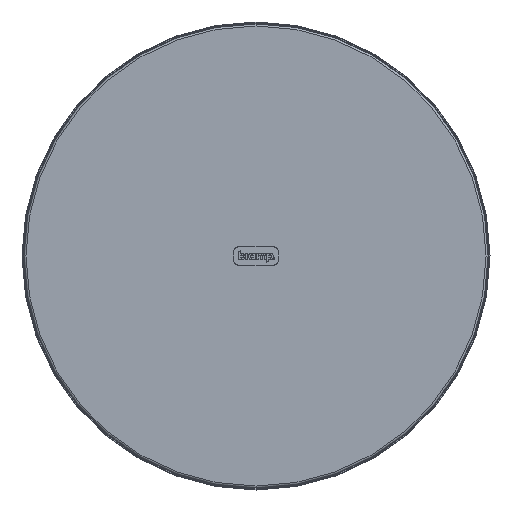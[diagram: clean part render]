
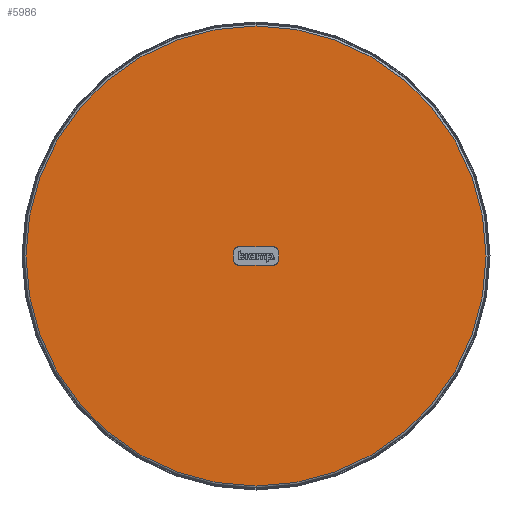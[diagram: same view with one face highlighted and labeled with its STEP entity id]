
A CAD part, front view. The second image highlights one B-rep face of the part: STEP entity #5986.
In plain terms, the highlighted planar face has unit normal (0, -1, 0).
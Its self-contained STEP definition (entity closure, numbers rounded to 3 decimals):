
#5986 = ADVANCED_FACE ( 'NONE', ( #104670, #94356 ), #16204, .T. ) ;
#7415 = CARTESIAN_POINT ( 'NONE',  ( 14., -13.15, 2.032 ) ) ;
#7579 = DIRECTION ( 'NONE',  ( 0., -1., 0. ) ) ;
#9292 = CARTESIAN_POINT ( 'NONE',  ( -10.19, -13.15, -5.842 ) ) ;
#9922 = ORIENTED_EDGE ( 'NONE', *, *, #13488, .T. ) ;
#13488 = EDGE_CURVE ( 'NONE', #118187, #21874, #24875, .T. ) ;
#14029 = CARTESIAN_POINT ( 'NONE',  ( 14., -13.15, -4.128 ) ) ;
#14691 = ORIENTED_EDGE ( 'NONE', *, *, #121827, .F. ) ;
#14977 = ORIENTED_EDGE ( 'NONE', *, *, #23787, .F. ) ;
#15924 = CARTESIAN_POINT ( 'NONE',  ( 14., -13.15, -2.032 ) ) ;
#15937 = EDGE_CURVE ( 'NONE', #62999, #65759, #49302, .T. ) ;
#16204 = PLANE ( 'NONE',  #95300 ) ;
#16627 = DIRECTION ( 'NONE',  ( 0., 0., -1. ) ) ;
#17974 = DIRECTION ( 'NONE',  ( -1., 0., 0. ) ) ;
#21874 = VERTEX_POINT ( 'NONE', #29361 ) ;
#23635 = VERTEX_POINT ( 'NONE', #41915 ) ;
#23787 = EDGE_CURVE ( 'NONE', #54209, #67262, #125825, .T. ) ;
#24875 = CIRCLE ( 'NONE', #115625, 142.8 ) ;
#25806 = CARTESIAN_POINT ( 'NONE',  ( 12.286, -13.15, 5.842 ) ) ;
#29361 = CARTESIAN_POINT ( 'NONE',  ( 0., -13.15, -142.8 ) ) ;
#31926 = VERTEX_POINT ( 'NONE', #7415 ) ;
#32430 = EDGE_CURVE ( 'NONE', #23635, #84513, #70951, .T. ) ;
#32920 = CARTESIAN_POINT ( 'NONE',  ( -14., -13.15, -2.032 ) ) ;
#33580 = CARTESIAN_POINT ( 'NONE',  ( 14., -13.15, 4.127 ) ) ;
#34902 = CARTESIAN_POINT ( 'NONE',  ( 0., -13.15, 142.8 ) ) ;
#35636 = ORIENTED_EDGE ( 'NONE', *, *, #119296, .T. ) ;
#37241 = VECTOR ( 'NONE', #82873, 1000. ) ;
#37495 = DIRECTION ( 'NONE',  ( 0., -1., 0. ) ) ;
#39802 = CARTESIAN_POINT ( 'NONE',  ( 14., -13.15, -2.032 ) ) ;
#41915 = CARTESIAN_POINT ( 'NONE',  ( -14., -13.15, 2.032 ) ) ;
#46750 = CARTESIAN_POINT ( 'NONE',  ( -10.19, -13.15, -5.842 ) ) ;
#49302 = B_SPLINE_CURVE_WITH_KNOTS ( 'NONE', 3,
 ( #112835, #121878, #14029, #15924 ),
 .UNSPECIFIED., .F., .F.,
 ( 4, 4 ),
 ( 0., 0.006 ),
 .UNSPECIFIED. ) ;
#51655 = CARTESIAN_POINT ( 'NONE',  ( 12.881, -13.15, -5.842 ) ) ;
#51957 = CARTESIAN_POINT ( 'NONE',  ( -10.19, -13.15, 5.842 ) ) ;
#54209 = VERTEX_POINT ( 'NONE', #110607 ) ;
#54216 = ORIENTED_EDGE ( 'NONE', *, *, #32430, .F. ) ;
#55485 = CARTESIAN_POINT ( 'NONE',  ( 14., -13.15, 2.032 ) ) ;
#57723 = CARTESIAN_POINT ( 'NONE',  ( -14., -13.15, -2.032 ) ) ;
#59855 = ORIENTED_EDGE ( 'NONE', *, *, #120175, .F. ) ;
#61704 = EDGE_CURVE ( 'NONE', #84513, #94346, #70500, .T. ) ;
#62509 = DIRECTION ( 'NONE',  ( 0., 0., -1. ) ) ;
#62999 = VERTEX_POINT ( 'NONE', #77169 ) ;
#63565 = EDGE_LOOP ( 'NONE', ( #35636, #9922 ) ) ;
#63921 = CARTESIAN_POINT ( 'NONE',  ( 10.19, -13.15, 5.842 ) ) ;
#65759 = VERTEX_POINT ( 'NONE', #39802 ) ;
#67262 = VERTEX_POINT ( 'NONE', #51957 ) ;
#68604 = CARTESIAN_POINT ( 'NONE',  ( -10.19, -13.15, 5.842 ) ) ;
#68645 = EDGE_CURVE ( 'NONE', #94346, #62999, #113006, .T. ) ;
#70500 = B_SPLINE_CURVE_WITH_KNOTS ( 'NONE', 3,
 ( #57723, #97156, #123634, #46750 ),
 .UNSPECIFIED., .F., .F.,
 ( 4, 4 ),
 ( 0., 0.006 ),
 .UNSPECIFIED. ) ;
#70951 = LINE ( 'NONE', #93528, #103342 ) ;
#73003 = VECTOR ( 'NONE', #17974, 1000. ) ;
#74351 = CARTESIAN_POINT ( 'NONE',  ( 0., -13.15, 0. ) ) ;
#74385 = ORIENTED_EDGE ( 'NONE', *, *, #124060, .F. ) ;
#75479 = CARTESIAN_POINT ( 'NONE',  ( 12.881, -13.15, 5.842 ) ) ;
#76775 = CARTESIAN_POINT ( 'NONE',  ( 0., -13.15, 0. ) ) ;
#77169 = CARTESIAN_POINT ( 'NONE',  ( 10.19, -13.15, -5.842 ) ) ;
#77660 = CARTESIAN_POINT ( 'NONE',  ( -12.286, -13.15, 5.842 ) ) ;
#82873 = DIRECTION ( 'NONE',  ( 0., 0., 1. ) ) ;
#83732 = VECTOR ( 'NONE', #91720, 1000. ) ;
#84349 = B_SPLINE_CURVE_WITH_KNOTS ( 'NONE', 3,
 ( #68604, #77660, #97047, #126748 ),
 .UNSPECIFIED., .F., .F.,
 ( 4, 4 ),
 ( 0., 0.006 ),
 .UNSPECIFIED. ) ;
#84513 = VERTEX_POINT ( 'NONE', #32920 ) ;
#85426 = CARTESIAN_POINT ( 'NONE',  ( 14., -13.15, 4.723 ) ) ;
#86008 = ORIENTED_EDGE ( 'NONE', *, *, #68645, .F. ) ;
#91720 = DIRECTION ( 'NONE',  ( 1., 0., 0. ) ) ;
#92009 = EDGE_LOOP ( 'NONE', ( #54216, #74385, #14977, #14691, #59855, #119306, #86008, #114083 ) ) ;
#93528 = CARTESIAN_POINT ( 'NONE',  ( -14., -13.15, 4.723 ) ) ;
#94346 = VERTEX_POINT ( 'NONE', #9292 ) ;
#94356 = FACE_OUTER_BOUND ( 'NONE', #63565, .T. ) ;
#95300 = AXIS2_PLACEMENT_3D ( 'NONE', #74351, #37495, #114412 ) ;
#96069 = CARTESIAN_POINT ( 'NONE',  ( 0., -13.15, 0. ) ) ;
#97047 = CARTESIAN_POINT ( 'NONE',  ( -14., -13.15, 4.127 ) ) ;
#97156 = CARTESIAN_POINT ( 'NONE',  ( -14., -13.15, -4.128 ) ) ;
#103088 = AXIS2_PLACEMENT_3D ( 'NONE', #96069, #7579, #16627 ) ;
#103342 = VECTOR ( 'NONE', #62509, 1000. ) ;
#104670 = FACE_BOUND ( 'NONE', #92009, .T. ) ;
#104699 = B_SPLINE_CURVE_WITH_KNOTS ( 'NONE', 3,
 ( #55485, #33580, #25806, #63921 ),
 .UNSPECIFIED., .F., .F.,
 ( 4, 4 ),
 ( 0., 0.006 ),
 .UNSPECIFIED. ) ;
#109376 = CIRCLE ( 'NONE', #103088, 142.8 ) ;
#110607 = CARTESIAN_POINT ( 'NONE',  ( 10.19, -13.15, 5.842 ) ) ;
#112835 = CARTESIAN_POINT ( 'NONE',  ( 10.19, -13.15, -5.842 ) ) ;
#113006 = LINE ( 'NONE', #51655, #83732 ) ;
#114083 = ORIENTED_EDGE ( 'NONE', *, *, #61704, .F. ) ;
#114412 = DIRECTION ( 'NONE',  ( 0., 0., -1. ) ) ;
#114505 = LINE ( 'NONE', #85426, #37241 ) ;
#115625 = AXIS2_PLACEMENT_3D ( 'NONE', #76775, #126475, #125168 ) ;
#118187 = VERTEX_POINT ( 'NONE', #34902 ) ;
#119296 = EDGE_CURVE ( 'NONE', #21874, #118187, #109376, .T. ) ;
#119306 = ORIENTED_EDGE ( 'NONE', *, *, #15937, .F. ) ;
#120175 = EDGE_CURVE ( 'NONE', #65759, #31926, #114505, .T. ) ;
#121827 = EDGE_CURVE ( 'NONE', #31926, #54209, #104699, .T. ) ;
#121878 = CARTESIAN_POINT ( 'NONE',  ( 12.286, -13.15, -5.842 ) ) ;
#123634 = CARTESIAN_POINT ( 'NONE',  ( -12.286, -13.15, -5.842 ) ) ;
#124060 = EDGE_CURVE ( 'NONE', #67262, #23635, #84349, .T. ) ;
#125168 = DIRECTION ( 'NONE',  ( 0., 0., -1. ) ) ;
#125825 = LINE ( 'NONE', #75479, #73003 ) ;
#126475 = DIRECTION ( 'NONE',  ( 0., -1., 0. ) ) ;
#126748 = CARTESIAN_POINT ( 'NONE',  ( -14., -13.15, 2.032 ) ) ;
